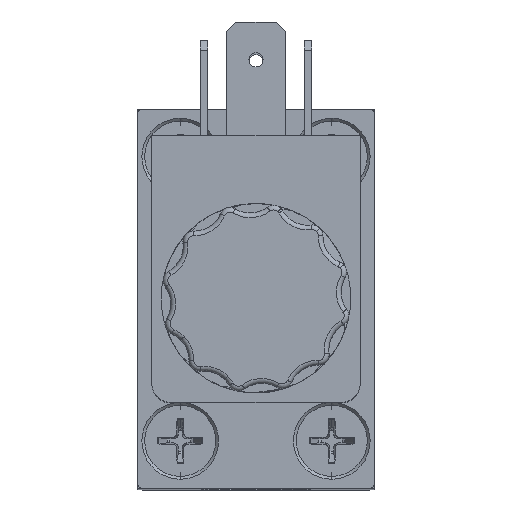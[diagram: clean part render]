
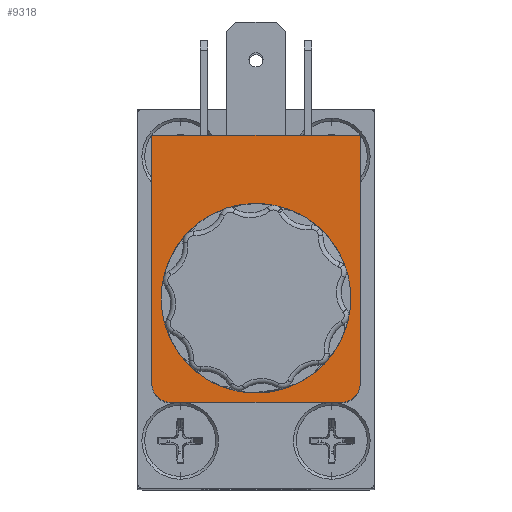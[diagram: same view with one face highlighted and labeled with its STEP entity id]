
A CAD part, top view. The second image highlights one B-rep face of the part: STEP entity #9318.
In plain terms, the highlighted planar face has unit normal (0, 0, 1).
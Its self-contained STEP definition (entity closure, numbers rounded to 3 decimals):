
#1787 = AXIS2_PLACEMENT_3D ( 'NONE', #2526, #2545, #2550 ) ;
#2526 = CARTESIAN_POINT ( 'NONE',  ( 9., 9., 30.5 ) ) ;
#2545 = DIRECTION ( 'NONE',  ( 0., 0., -1. ) ) ;
#2550 = DIRECTION ( 'NONE',  ( 0.707, 0.707, 0. ) ) ;
#3422 = CIRCLE ( 'NONE', #1787, 2. ) ;
#7118 = EDGE_CURVE ( 'NONE', #8135, #7619, #16910, .T. ) ;
#7119 = EDGE_CURVE ( 'NONE', #8226, #7616, #16911, .T. ) ;
#7130 = EDGE_CURVE ( 'NONE', #8157, #8156, #16927, .T. ) ;
#7203 = EDGE_CURVE ( 'NONE', #8156, #8157, #18508, .T. ) ;
#7616 = VERTEX_POINT ( 'NONE', #19421 ) ;
#7619 = VERTEX_POINT ( 'NONE', #19424 ) ;
#7771 = VERTEX_POINT ( 'NONE', #19576 ) ;
#7772 = VERTEX_POINT ( 'NONE', #19577 ) ;
#8135 = VERTEX_POINT ( 'NONE', #19919 ) ;
#8156 = VERTEX_POINT ( 'NONE', #19936 ) ;
#8157 = VERTEX_POINT ( 'NONE', #19937 ) ;
#8226 = VERTEX_POINT ( 'NONE', #20001 ) ;
#8484 = VERTEX_POINT ( 'NONE', #20240 ) ;
#8485 = VERTEX_POINT ( 'NONE', #20241 ) ;
#9318 = ADVANCED_FACE ( 'NONE', ( #32190, #32199 ), #30308, .T. ) ;
#11788 = EDGE_LOOP ( 'NONE', ( #13827, #13828, #13829, #13830, #13831, #13832, #13833, #13834 ) ) ;
#11793 = EDGE_LOOP ( 'NONE', ( #13835, #13836 ) ) ;
#12204 = EDGE_CURVE ( 'NONE', #7616, #8485, #34744, .T. ) ;
#12207 = EDGE_CURVE ( 'NONE', #7619, #7771, #34754, .T. ) ;
#12209 = EDGE_CURVE ( 'NONE', #8484, #8226, #34762, .T. ) ;
#12212 = EDGE_CURVE ( 'NONE', #7772, #8484, #34765, .T. ) ;
#12214 = EDGE_CURVE ( 'NONE', #7771, #7772, #34761, .T. ) ;
#13827 = ORIENTED_EDGE ( 'NONE', *, *, #25165, .F. ) ;
#13828 = ORIENTED_EDGE ( 'NONE', *, *, #12204, .F. ) ;
#13829 = ORIENTED_EDGE ( 'NONE', *, *, #7119, .F. ) ;
#13830 = ORIENTED_EDGE ( 'NONE', *, *, #12209, .F. ) ;
#13831 = ORIENTED_EDGE ( 'NONE', *, *, #12212, .F. ) ;
#13832 = ORIENTED_EDGE ( 'NONE', *, *, #12214, .F. ) ;
#13833 = ORIENTED_EDGE ( 'NONE', *, *, #12207, .F. ) ;
#13834 = ORIENTED_EDGE ( 'NONE', *, *, #7118, .F. ) ;
#13835 = ORIENTED_EDGE ( 'NONE', *, *, #7203, .T. ) ;
#13836 = ORIENTED_EDGE ( 'NONE', *, *, #7130, .T. ) ;
#15245 = AXIS2_PLACEMENT_3D ( 'NONE', #18248, #18249, #18250 ) ;
#15248 = AXIS2_PLACEMENT_3D ( 'NONE', #18238, #18246, #18247 ) ;
#15251 = AXIS2_PLACEMENT_3D ( 'NONE', #18275, #18276, #18277 ) ;
#15266 = AXIS2_PLACEMENT_3D ( 'NONE', #18995, #18997, #18998 ) ;
#16910 = CIRCLE ( 'NONE', #15248, 2. ) ;
#16911 = CIRCLE ( 'NONE', #15245, 2. ) ;
#16927 = CIRCLE ( 'NONE', #15251, 8.3 ) ;
#18238 = CARTESIAN_POINT ( 'NONE',  ( 9., 9., 30.5 ) ) ;
#18246 = DIRECTION ( 'NONE',  ( 0., 0., -1. ) ) ;
#18247 = DIRECTION ( 'NONE',  ( 0.707, 0.707, 0. ) ) ;
#18248 = CARTESIAN_POINT ( 'NONE',  ( -9., 9., 30.5 ) ) ;
#18249 = DIRECTION ( 'NONE',  ( 0., 0., -1. ) ) ;
#18250 = DIRECTION ( 'NONE',  ( -0.707, 0.707, 0. ) ) ;
#18275 = CARTESIAN_POINT ( 'NONE',  ( 0., 0., 30.5 ) ) ;
#18276 = DIRECTION ( 'NONE',  ( 0., 0., -1. ) ) ;
#18277 = DIRECTION ( 'NONE',  ( -1., 0., 0. ) ) ;
#18508 = CIRCLE ( 'NONE', #15266, 8.3 ) ;
#18995 = CARTESIAN_POINT ( 'NONE',  ( 0., 0., 30.5 ) ) ;
#18997 = DIRECTION ( 'NONE',  ( 0., 0., -1. ) ) ;
#18998 = DIRECTION ( 'NONE',  ( -1., 0., 0. ) ) ;
#19421 = CARTESIAN_POINT ( 'NONE',  ( -9., 11., 30.5 ) ) ;
#19424 = CARTESIAN_POINT ( 'NONE',  ( 11., 9., 30.5 ) ) ;
#19576 = CARTESIAN_POINT ( 'NONE',  ( 11., -17.2, 30.5 ) ) ;
#19577 = CARTESIAN_POINT ( 'NONE',  ( -11., -17.2, 30.5 ) ) ;
#19919 = CARTESIAN_POINT ( 'NONE',  ( 10.414, 10.414, 30.5 ) ) ;
#19936 = CARTESIAN_POINT ( 'NONE',  ( -8.3, 0., 30.5 ) ) ;
#19937 = CARTESIAN_POINT ( 'NONE',  ( 8.3, 0., 30.5 ) ) ;
#20001 = CARTESIAN_POINT ( 'NONE',  ( -10.414, 10.414, 30.5 ) ) ;
#20240 = CARTESIAN_POINT ( 'NONE',  ( -11., 9., 30.5 ) ) ;
#20241 = CARTESIAN_POINT ( 'NONE',  ( 9., 11., 30.5 ) ) ;
#25165 = EDGE_CURVE ( 'NONE', #8485, #8135, #3422, .T. ) ;
#30304 = CARTESIAN_POINT ( 'NONE',  ( 0., -3.1, 30.5 ) ) ;
#30308 = PLANE ( 'NONE',  #31162 ) ;
#30316 = DIRECTION ( 'NONE',  ( 0., 0., 1. ) ) ;
#30317 = DIRECTION ( 'NONE',  ( 0.707, 0.707, 0. ) ) ;
#31162 = AXIS2_PLACEMENT_3D ( 'NONE', #30304, #30316, #30317 ) ;
#31704 = AXIS2_PLACEMENT_3D ( 'NONE', #34177, #34184, #34185 ) ;
#32190 = FACE_OUTER_BOUND ( 'NONE', #11788, .T. ) ;
#32199 = FACE_BOUND ( 'NONE', #11793, .T. ) ;
#34113 = CARTESIAN_POINT ( 'NONE',  ( -9., 11., 30.5 ) ) ;
#34172 = DIRECTION ( 'NONE',  ( 1., 0., 0. ) ) ;
#34176 = CARTESIAN_POINT ( 'NONE',  ( 11., 9., 30.5 ) ) ;
#34177 = CARTESIAN_POINT ( 'NONE',  ( -9., 9., 30.5 ) ) ;
#34180 = DIRECTION ( 'NONE',  ( 0., -1., 0. ) ) ;
#34181 = CARTESIAN_POINT ( 'NONE',  ( 11., -17.2, 30.5 ) ) ;
#34184 = DIRECTION ( 'NONE',  ( 0., 0., -1. ) ) ;
#34185 = DIRECTION ( 'NONE',  ( -0.707, 0.707, 0. ) ) ;
#34190 = CARTESIAN_POINT ( 'NONE',  ( -11., -17.2, 30.5 ) ) ;
#34191 = DIRECTION ( 'NONE',  ( 0., 1., 0. ) ) ;
#34196 = DIRECTION ( 'NONE',  ( -1., 0., 0. ) ) ;
#34744 = LINE ( 'NONE', #34113, #34753 ) ;
#34753 = VECTOR ( 'NONE', #34172, 1000. ) ;
#34754 = LINE ( 'NONE', #34176, #34757 ) ;
#34757 = VECTOR ( 'NONE', #34180, 1000. ) ;
#34761 = LINE ( 'NONE', #34181, #34769 ) ;
#34762 = CIRCLE ( 'NONE', #31704, 2. ) ;
#34765 = LINE ( 'NONE', #34190, #34766 ) ;
#34766 = VECTOR ( 'NONE', #34191, 1000. ) ;
#34769 = VECTOR ( 'NONE', #34196, 1000. ) ;
